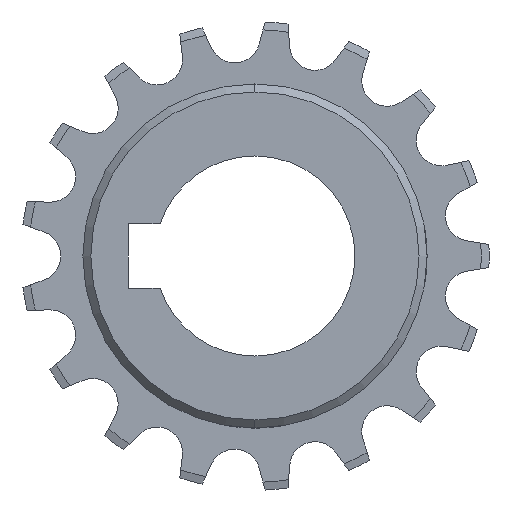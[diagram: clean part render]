
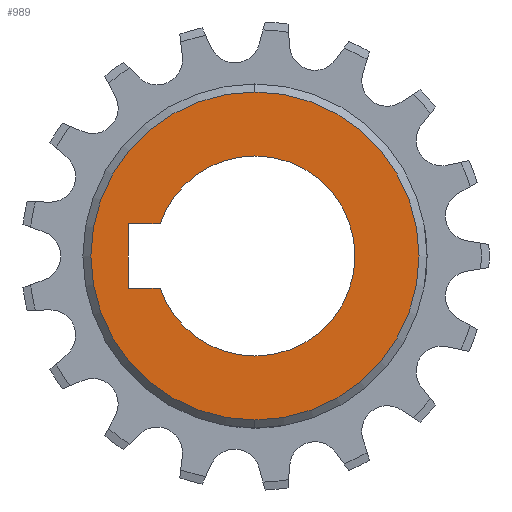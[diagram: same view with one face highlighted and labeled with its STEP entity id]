
A CAD part, left-side view. The second image highlights one B-rep face of the part: STEP entity #989.
In plain terms, the highlighted planar face has unit normal (-1, 0, 0).
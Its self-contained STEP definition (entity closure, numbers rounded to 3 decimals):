
#261 = EDGE_CURVE ( 'NONE', #265, #297, #1867, .T. ) ;
#263 = ORIENTED_EDGE ( 'NONE', *, *, #284, .F. ) ;
#264 = VERTEX_POINT ( 'NONE', #1858 ) ;
#265 = VERTEX_POINT ( 'NONE', #1864 ) ;
#277 = ORIENTED_EDGE ( 'NONE', *, *, #261, .F. ) ;
#278 = ORIENTED_EDGE ( 'NONE', *, *, #1192, .F. ) ;
#281 = ORIENTED_EDGE ( 'NONE', *, *, #1330, .F. ) ;
#284 = EDGE_CURVE ( 'NONE', #1190, #265, #1911, .T. ) ;
#289 = ORIENTED_EDGE ( 'NONE', *, *, #294, .F. ) ;
#294 = EDGE_CURVE ( 'NONE', #297, #264, #1897, .T. ) ;
#295 = EDGE_CURVE ( 'NONE', #264, #1261, #1901, .T. ) ;
#297 = VERTEX_POINT ( 'NONE', #1946 ) ;
#956 = EDGE_CURVE ( 'NONE', #1282, #1280, #3016, .T. ) ;
#989 = ADVANCED_FACE ( 'NONE', ( #3055, #3097 ), #3096, .F. ) ;
#990 = ORIENTED_EDGE ( 'NONE', *, *, #295, .F. ) ;
#992 = ORIENTED_EDGE ( 'NONE', *, *, #1285, .T. ) ;
#998 = EDGE_LOOP ( 'NONE', ( #990, #289, #277, #263, #281, #278 ) ) ;
#1000 = ORIENTED_EDGE ( 'NONE', *, *, #956, .T. ) ;
#1043 = EDGE_LOOP ( 'NONE', ( #1000, #992 ) ) ;
#1190 = VERTEX_POINT ( 'NONE', #3450 ) ;
#1192 = EDGE_CURVE ( 'NONE', #1261, #1260, #3462, .T. ) ;
#1260 = VERTEX_POINT ( 'NONE', #3677 ) ;
#1261 = VERTEX_POINT ( 'NONE', #3661 ) ;
#1280 = VERTEX_POINT ( 'NONE', #3667 ) ;
#1282 = VERTEX_POINT ( 'NONE', #3753 ) ;
#1285 = EDGE_CURVE ( 'NONE', #1280, #1282, #3784, .T. ) ;
#1330 = EDGE_CURVE ( 'NONE', #1260, #1190, #3847, .T. ) ;
#1858 = CARTESIAN_POINT ( 'NONE',  ( 0., 11.843, -4. ) ) ;
#1859 = DIRECTION ( 'NONE',  ( 0., 0., -1. ) ) ;
#1860 = VECTOR ( 'NONE', #1859, 1000. ) ;
#1861 = CARTESIAN_POINT ( 'NONE',  ( 0., 15.8, 4. ) ) ;
#1864 = CARTESIAN_POINT ( 'NONE',  ( 0., 15.8, 4. ) ) ;
#1867 = LINE ( 'NONE', #1861, #1860 ) ;
#1886 = DIRECTION ( 'NONE',  ( 0., 0., 1. ) ) ;
#1887 = DIRECTION ( 'NONE',  ( -1., 0., 0. ) ) ;
#1893 = DIRECTION ( 'NONE',  ( 0., -1., 0. ) ) ;
#1894 = VECTOR ( 'NONE', #1893, 1000. ) ;
#1897 = LINE ( 'NONE', #1905, #1894 ) ;
#1901 = CIRCLE ( 'NONE', #1912, 12.5 ) ;
#1902 = CARTESIAN_POINT ( 'NONE',  ( 0., 0., 0. ) ) ;
#1903 = DIRECTION ( 'NONE',  ( 0., 1., 0. ) ) ;
#1905 = CARTESIAN_POINT ( 'NONE',  ( 0., 15.8, -4. ) ) ;
#1909 = VECTOR ( 'NONE', #1903, 1000. ) ;
#1910 = CARTESIAN_POINT ( 'NONE',  ( 0., 11.843, 4. ) ) ;
#1911 = LINE ( 'NONE', #1910, #1909 ) ;
#1912 = AXIS2_PLACEMENT_3D ( 'NONE', #1902, #1887, #1886 ) ;
#1946 = CARTESIAN_POINT ( 'NONE',  ( 0., 15.8, -4. ) ) ;
#2970 = CARTESIAN_POINT ( 'NONE',  ( 0., 0., 0. ) ) ;
#3011 = DIRECTION ( 'NONE',  ( 0., 0., -1. ) ) ;
#3012 = DIRECTION ( 'NONE',  ( -1., 0., 0. ) ) ;
#3013 = AXIS2_PLACEMENT_3D ( 'NONE', #2970, #3012, #3011 ) ;
#3016 = CIRCLE ( 'NONE', #3013, 20.5 ) ;
#3052 = AXIS2_PLACEMENT_3D ( 'NONE', #3054, #3090, #3089 ) ;
#3054 = CARTESIAN_POINT ( 'NONE',  ( 0., 21.5, 0. ) ) ;
#3055 = FACE_OUTER_BOUND ( 'NONE', #1043, .T. ) ;
#3089 = DIRECTION ( 'NONE',  ( 0., 0., -1. ) ) ;
#3090 = DIRECTION ( 'NONE',  ( 1., 0., 0. ) ) ;
#3096 = PLANE ( 'NONE',  #3052 ) ;
#3097 = FACE_BOUND ( 'NONE', #998, .T. ) ;
#3439 = DIRECTION ( 'NONE',  ( 0., 0., 1. ) ) ;
#3440 = DIRECTION ( 'NONE',  ( -1., 0., 0. ) ) ;
#3441 = AXIS2_PLACEMENT_3D ( 'NONE', #3444, #3440, #3439 ) ;
#3444 = CARTESIAN_POINT ( 'NONE',  ( 0., 0., 0. ) ) ;
#3450 = CARTESIAN_POINT ( 'NONE',  ( 0., 11.843, 4. ) ) ;
#3462 = CIRCLE ( 'NONE', #3441, 12.5 ) ;
#3661 = CARTESIAN_POINT ( 'NONE',  ( 0., 0., -12.5 ) ) ;
#3667 = CARTESIAN_POINT ( 'NONE',  ( 0., 0., 20.5 ) ) ;
#3677 = CARTESIAN_POINT ( 'NONE',  ( 0., 0., 12.5 ) ) ;
#3752 = CARTESIAN_POINT ( 'NONE',  ( 0., 0., 0. ) ) ;
#3753 = CARTESIAN_POINT ( 'NONE',  ( 0., 0., -20.5 ) ) ;
#3754 = AXIS2_PLACEMENT_3D ( 'NONE', #3752, #3776, #3775 ) ;
#3775 = DIRECTION ( 'NONE',  ( 0., 0., -1. ) ) ;
#3776 = DIRECTION ( 'NONE',  ( -1., 0., 0. ) ) ;
#3784 = CIRCLE ( 'NONE', #3754, 20.5 ) ;
#3847 = CIRCLE ( 'NONE', #3900, 12.5 ) ;
#3890 = DIRECTION ( 'NONE',  ( 0., 0., 1. ) ) ;
#3891 = DIRECTION ( 'NONE',  ( -1., 0., 0. ) ) ;
#3898 = CARTESIAN_POINT ( 'NONE',  ( 0., 0., 0. ) ) ;
#3900 = AXIS2_PLACEMENT_3D ( 'NONE', #3898, #3891, #3890 ) ;
